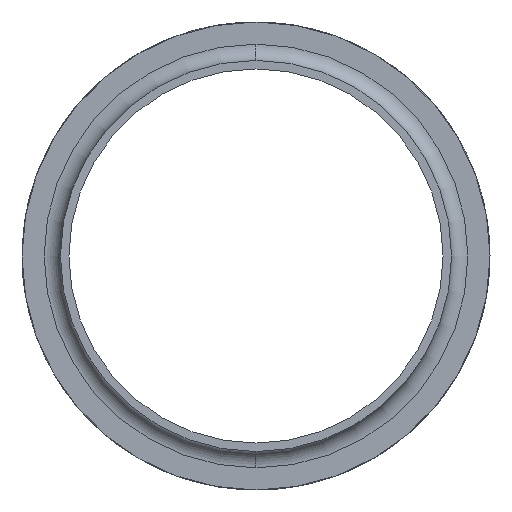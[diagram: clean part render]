
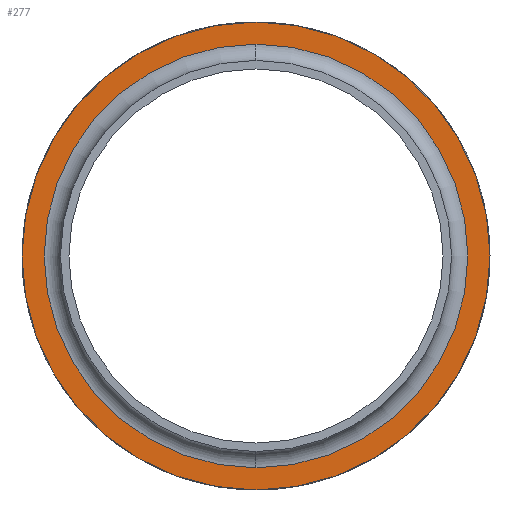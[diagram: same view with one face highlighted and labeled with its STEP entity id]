
A CAD part, left-side view. The second image highlights one B-rep face of the part: STEP entity #277.
In plain terms, the highlighted planar face has unit normal (-1, 0, 0).
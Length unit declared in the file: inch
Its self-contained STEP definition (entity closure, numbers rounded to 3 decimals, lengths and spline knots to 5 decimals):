
#33 = DIRECTION ( 'NONE',  ( 1., 0., 0. ) ) ;
#98 = EDGE_LOOP ( 'NONE', ( #2425, #2379 ) ) ;
#102 = DIRECTION ( 'NONE',  ( 0., 0., 1. ) ) ;
#149 = CARTESIAN_POINT ( 'NONE',  ( 0.157, 0., 0. ) ) ;
#157 = VERTEX_POINT ( 'NONE', #2268 ) ;
#165 = CARTESIAN_POINT ( 'NONE',  ( 0.157, 0., -1.795 ) ) ;
#237 = PLANE ( 'NONE',  #1946 ) ;
#277 = ADVANCED_FACE ( 'NONE', ( #1668, #464 ), #237, .F. ) ;
#464 = FACE_OUTER_BOUND ( 'NONE', #98, .T. ) ;
#606 = DIRECTION ( 'NONE',  ( 0., 0., 1. ) ) ;
#670 = VERTEX_POINT ( 'NONE', #1471 ) ;
#711 = AXIS2_PLACEMENT_3D ( 'NONE', #1996, #2914, #840 ) ;
#806 = CIRCLE ( 'NONE', #2443, 1.625 ) ;
#840 = DIRECTION ( 'NONE',  ( 0., 0., 1. ) ) ;
#947 = EDGE_CURVE ( 'NONE', #670, #1043, #1583, .T. ) ;
#1043 = VERTEX_POINT ( 'NONE', #165 ) ;
#1189 = DIRECTION ( 'NONE',  ( 0., 0., 1. ) ) ;
#1241 = AXIS2_PLACEMENT_3D ( 'NONE', #2322, #1921, #1189 ) ;
#1471 = CARTESIAN_POINT ( 'NONE',  ( 0.157, 0., 1.795 ) ) ;
#1477 = ORIENTED_EDGE ( 'NONE', *, *, #2389, .F. ) ;
#1574 = CIRCLE ( 'NONE', #2483, 1.625 ) ;
#1583 = CIRCLE ( 'NONE', #711, 1.795 ) ;
#1668 = FACE_BOUND ( 'NONE', #1900, .T. ) ;
#1794 = EDGE_CURVE ( 'NONE', #1043, #670, #2838, .T. ) ;
#1900 = EDGE_LOOP ( 'NONE', ( #1477, #2097 ) ) ;
#1921 = DIRECTION ( 'NONE',  ( -1., 0., 0. ) ) ;
#1936 = CARTESIAN_POINT ( 'NONE',  ( 0.157, 0., 0. ) ) ;
#1946 = AXIS2_PLACEMENT_3D ( 'NONE', #2784, #33, #2570 ) ;
#1996 = CARTESIAN_POINT ( 'NONE',  ( 0.157, 0., 0. ) ) ;
#2097 = ORIENTED_EDGE ( 'NONE', *, *, #2957, .F. ) ;
#2121 = CARTESIAN_POINT ( 'NONE',  ( 0.157, 0., -1.625 ) ) ;
#2268 = CARTESIAN_POINT ( 'NONE',  ( 0.157, 0., 1.625 ) ) ;
#2322 = CARTESIAN_POINT ( 'NONE',  ( 0.157, 0., 0. ) ) ;
#2379 = ORIENTED_EDGE ( 'NONE', *, *, #947, .T. ) ;
#2389 = EDGE_CURVE ( 'NONE', #157, #2608, #1574, .T. ) ;
#2425 = ORIENTED_EDGE ( 'NONE', *, *, #1794, .T. ) ;
#2443 = AXIS2_PLACEMENT_3D ( 'NONE', #1936, #2856, #102 ) ;
#2483 = AXIS2_PLACEMENT_3D ( 'NONE', #149, #2677, #606 ) ;
#2570 = DIRECTION ( 'NONE',  ( 0., 0., -1. ) ) ;
#2608 = VERTEX_POINT ( 'NONE', #2121 ) ;
#2677 = DIRECTION ( 'NONE',  ( -1., 0., 0. ) ) ;
#2784 = CARTESIAN_POINT ( 'NONE',  ( 0.157, 1.625, 0. ) ) ;
#2838 = CIRCLE ( 'NONE', #1241, 1.795 ) ;
#2856 = DIRECTION ( 'NONE',  ( -1., 0., 0. ) ) ;
#2914 = DIRECTION ( 'NONE',  ( -1., 0., 0. ) ) ;
#2957 = EDGE_CURVE ( 'NONE', #2608, #157, #806, .T. ) ;
